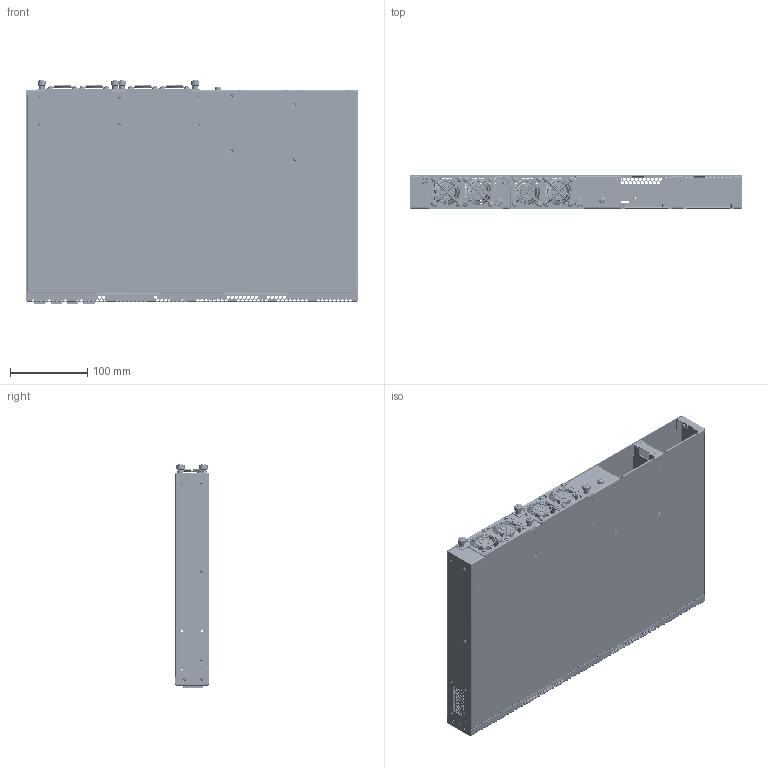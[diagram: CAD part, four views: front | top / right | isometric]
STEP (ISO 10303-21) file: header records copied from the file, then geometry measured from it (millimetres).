
FILE_DESCRIPTION (( 'STEP AP214' ), '1' );
FILE_NAME ('ESR-31.STEP', '2024-08-14T08:24:22', ( '' ), ( '' ), 'SwSTEP 2.0', 'SolidWorks 2023', '' );
FILE_SCHEMA (( 'AUTOMOTIVE_DESIGN' ));
Length unit declared in the file: millimetre
Products named in the file (1): ESR-31
Bounding box: 430 x 43.6 x 288.91 mm (x, y, z)
Volume: 511617.1 mm3; surface area: 909962.7 mm2
Topology: 335 solids, 335 shells, 42454 faces, 113530 edges, 71807 vertices
Faces by surface type: plane 22342, cylinder 9705, cone 9313, bspline 730, torus 322, sphere 42
Entity records: 1341877 total; most frequent: CARTESIAN_POINT 261409, ORIENTED_EDGE 226480, DIRECTION 225241, EDGE_CURVE 113240, LINE 76903, VECTOR 76903, AXIS2_PLACEMENT_3D 74169, VERTEX_POINT 71807
